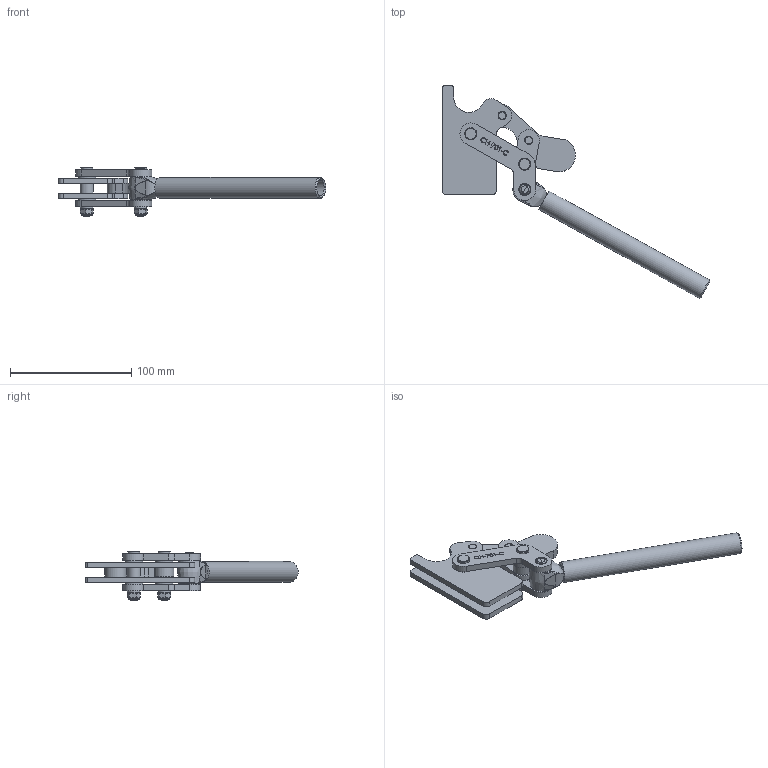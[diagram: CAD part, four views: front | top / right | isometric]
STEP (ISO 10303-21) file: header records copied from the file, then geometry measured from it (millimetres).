
FILE_DESCRIPTION(/* description */ ('STEP AP203'),/* implementation_level */ '2;1');
FILE_NAME(/* name */ 'D:\Vault_2016\Projekty\NASZ KATALOG\CLAMPTEK\STRONA\Heavy duty weldables\CH-701-C\CH-701-C_OTWARTY.stp',/* time_stamp */ '2019-01-14T12:14:41+01:00',/* author */ ('CADENGINEERING4'),/* organization */ ('Î¢ÈíÖÐ¹ú'),/* preprocessor_version */ 'ST-DEVELOPER v17.2',/* originating_system */ 'Autodesk Inventor 2019',/* authorisation */ '');
FILE_SCHEMA (('AUTOMOTIVE_DESIGN { 1 0 10303 214 3 1 1 }'));
Products named in the file (14): CH-701-C; 01-01_Ä¬ÈÏ; 02-04-2_Ä¬ÈÏ; 02-09_Ä¬ÈÏ; 02-03_Ä¬ÈÏ; 02-05_Ä¬ÈÏ; 02-08_Ä¬ÈÏ; 02-06_Ä¬ÈÏ; 02-13_Ä¬ÈÏ; 02-12_Ä¬ÈÏ; 1-4·ÀËÉÂÝÄ¸_Ä¬
ÈÏ; 702-C-10-1_Ä¬ÈÏ; 02-07_Ä¬ÈÏ; DIANPIAN_Ä¬ÈÏ
Assembly tree (22 placements, depth 2):
  CH-701-C
    01-01_Ä¬ÈÏ
    02-13_Ä¬ÈÏ  x2
    02-04-2_Ä¬ÈÏ
    02-12_Ä¬ÈÏ  x2
    DIANPIAN_Ä¬ÈÏ  x4
    02-03_Ä¬ÈÏ  x2
    02-06_Ä¬ÈÏ  x2
    02-09_Ä¬ÈÏ
    02-05_Ä¬ÈÏ
    02-08_Ä¬ÈÏ
    02-07_Ä¬ÈÏ  x2
    1-4·ÀËÉÂÝÄ¸_Ä¬
ÈÏ  x2
    702-C-10-1_Ä¬ÈÏ
Bounding box: 220.97 x 175.44 x 40.9 mm (x, y, z)
Volume: 93978.6 mm3; surface area: 60152 mm2
Topology: 25 solids, 25 shells, 2785 faces, 8055 edges, 5354 vertices
Faces by surface type: plane 1652, cylinder 874, bspline 201, cone 41, torus 17
Full cylindrical faces by diameter (mm): 1.286 x1, 1.46 x1, 4.2 x4, 5 x2, 6.35 x10, 6.85 x4, 6.9 x2, 7 x10, 7.25 x4, 8 x4, 9 x2, 9.4 x4, 9.5 x2, 10 x4, 11 x1, 11.5 x1, 13.3 x1, 15 x4, 15.9 x1, 17.3 x1
Entity records: 74873 total; most frequent: CARTESIAN_POINT 25478, ORIENTED_EDGE 10848, DIRECTION 9659, EDGE_CURVE 5424, VERTEX_POINT 3593, AXIS2_PLACEMENT_3D 3443, LINE 2773, VECTOR 2773
